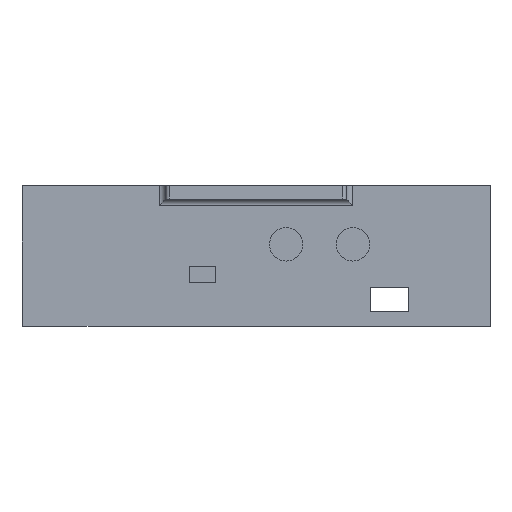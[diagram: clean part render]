
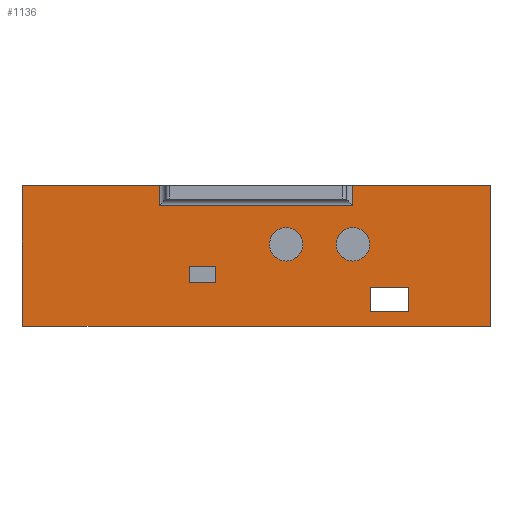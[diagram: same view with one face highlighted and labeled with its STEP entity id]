
A CAD part, top view. The second image highlights one B-rep face of the part: STEP entity #1136.
In plain terms, the highlighted planar face has unit normal (0, 0, 1).
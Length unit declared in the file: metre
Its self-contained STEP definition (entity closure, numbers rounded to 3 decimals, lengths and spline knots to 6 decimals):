
#28=CIRCLE('',#1209,0.005);
#29=CIRCLE('',#1210,0.005);
#52=ORIENTED_EDGE('',*,*,#386,.T.);
#53=ORIENTED_EDGE('',*,*,#387,.T.);
#54=ORIENTED_EDGE('',*,*,#388,.T.);
#55=ORIENTED_EDGE('',*,*,#389,.T.);
#56=ORIENTED_EDGE('',*,*,#390,.F.);
#57=ORIENTED_EDGE('',*,*,#391,.T.);
#58=ORIENTED_EDGE('',*,*,#392,.T.);
#59=ORIENTED_EDGE('',*,*,#393,.T.);
#60=ORIENTED_EDGE('',*,*,#394,.F.);
#61=ORIENTED_EDGE('',*,*,#395,.T.);
#62=ORIENTED_EDGE('',*,*,#396,.F.);
#63=ORIENTED_EDGE('',*,*,#397,.F.);
#64=ORIENTED_EDGE('',*,*,#398,.F.);
#65=ORIENTED_EDGE('',*,*,#399,.F.);
#66=ORIENTED_EDGE('',*,*,#400,.F.);
#67=ORIENTED_EDGE('',*,*,#401,.T.);
#68=ORIENTED_EDGE('',*,*,#402,.T.);
#69=ORIENTED_EDGE('',*,*,#403,.F.);
#386=EDGE_CURVE('',#553,#554,#667,.F.);
#387=EDGE_CURVE('',#554,#555,#668,.F.);
#388=EDGE_CURVE('',#555,#556,#669,.T.);
#389=EDGE_CURVE('',#556,#557,#670,.T.);
#390=EDGE_CURVE('',#558,#557,#671,.T.);
#391=EDGE_CURVE('',#558,#559,#672,.T.);
#392=EDGE_CURVE('',#559,#560,#673,.T.);
#393=EDGE_CURVE('',#560,#553,#674,.F.);
#394=EDGE_CURVE('',#561,#561,#28,.T.);
#395=EDGE_CURVE('',#562,#562,#29,.T.);
#396=EDGE_CURVE('',#563,#564,#675,.T.);
#397=EDGE_CURVE('',#565,#563,#676,.T.);
#398=EDGE_CURVE('',#566,#565,#677,.T.);
#399=EDGE_CURVE('',#564,#566,#678,.T.);
#400=EDGE_CURVE('',#567,#568,#679,.T.);
#401=EDGE_CURVE('',#567,#569,#680,.T.);
#402=EDGE_CURVE('',#569,#570,#681,.T.);
#403=EDGE_CURVE('',#568,#570,#682,.T.);
#553=VERTEX_POINT('',#1609);
#554=VERTEX_POINT('',#1610);
#555=VERTEX_POINT('',#1612);
#556=VERTEX_POINT('',#1614);
#557=VERTEX_POINT('',#1616);
#558=VERTEX_POINT('',#1618);
#559=VERTEX_POINT('',#1620);
#560=VERTEX_POINT('',#1622);
#561=VERTEX_POINT('',#1625);
#562=VERTEX_POINT('',#1627);
#563=VERTEX_POINT('',#1629);
#564=VERTEX_POINT('',#1630);
#565=VERTEX_POINT('',#1632);
#566=VERTEX_POINT('',#1634);
#567=VERTEX_POINT('',#1637);
#568=VERTEX_POINT('',#1638);
#569=VERTEX_POINT('',#1640);
#570=VERTEX_POINT('',#1642);
#667=LINE('',#1608,#808);
#668=LINE('',#1611,#809);
#669=LINE('',#1613,#810);
#670=LINE('',#1615,#811);
#671=LINE('',#1617,#812);
#672=LINE('',#1619,#813);
#673=LINE('',#1621,#814);
#674=LINE('',#1623,#815);
#675=LINE('',#1628,#816);
#676=LINE('',#1631,#817);
#677=LINE('',#1633,#818);
#678=LINE('',#1635,#819);
#679=LINE('',#1636,#820);
#680=LINE('',#1639,#821);
#681=LINE('',#1641,#822);
#682=LINE('',#1643,#823);
#808=VECTOR('',#1297,1.);
#809=VECTOR('',#1298,1.);
#810=VECTOR('',#1299,1.);
#811=VECTOR('',#1300,1.);
#812=VECTOR('',#1301,1.);
#813=VECTOR('',#1302,1.);
#814=VECTOR('',#1303,1.);
#815=VECTOR('',#1304,1.);
#816=VECTOR('',#1309,1.);
#817=VECTOR('',#1310,1.);
#818=VECTOR('',#1311,1.);
#819=VECTOR('',#1312,1.);
#820=VECTOR('',#1313,1.);
#821=VECTOR('',#1314,1.);
#822=VECTOR('',#1315,1.);
#823=VECTOR('',#1316,1.);
#949=EDGE_LOOP('',(#52,#53,#54,#55,#56,#57,#58,#59));
#950=EDGE_LOOP('',(#60));
#951=EDGE_LOOP('',(#61));
#952=EDGE_LOOP('',(#62,#63,#64,#65));
#953=EDGE_LOOP('',(#66,#67,#68,#69));
#1020=FACE_BOUND('',#949,.T.);
#1021=FACE_BOUND('',#950,.T.);
#1022=FACE_BOUND('',#951,.T.);
#1023=FACE_BOUND('',#952,.T.);
#1024=FACE_BOUND('',#953,.T.);
#1091=PLANE('',#1208);
#1136=ADVANCED_FACE('',(#1020,#1021,#1022,#1023,#1024),#1091,.T.);
#1208=AXIS2_PLACEMENT_3D('',#1607,#1295,#1296);
#1209=AXIS2_PLACEMENT_3D('',#1624,#1305,#1306);
#1210=AXIS2_PLACEMENT_3D('',#1626,#1307,#1308);
#1295=DIRECTION('',(0.,0.,1.));
#1296=DIRECTION('',(0.,-1.,0.));
#1297=DIRECTION('',(1.,0.,0.));
#1298=DIRECTION('',(0.,-1.,0.));
#1299=DIRECTION('',(-1.,0.,0.));
#1300=DIRECTION('',(0.,-1.,0.));
#1301=DIRECTION('',(-1.,0.,0.));
#1302=DIRECTION('',(0.,1.,0.));
#1303=DIRECTION('',(-1.,0.,0.));
#1304=DIRECTION('',(0.,1.,0.));
#1305=DIRECTION('',(0.,0.,1.));
#1306=DIRECTION('',(1.,0.,0.));
#1307=DIRECTION('',(0.,0.,-1.));
#1308=DIRECTION('',(1.,0.,0.));
#1309=DIRECTION('',(1.,0.,0.));
#1310=DIRECTION('',(0.,-1.,0.));
#1311=DIRECTION('',(-1.,0.,0.));
#1312=DIRECTION('',(0.,1.,0.));
#1313=DIRECTION('',(0.,1.,0.));
#1314=DIRECTION('',(-1.,0.,0.));
#1315=DIRECTION('',(0.,1.,0.));
#1316=DIRECTION('',(-1.,0.,0.));
#1607=CARTESIAN_POINT('',(0.0795,0.,0.003));
#1608=CARTESIAN_POINT('',(0.0795,-0.026,0.003));
#1609=CARTESIAN_POINT('',(0.1785,-0.026,0.003));
#1610=CARTESIAN_POINT('',(0.1205,-0.026,0.003));
#1611=CARTESIAN_POINT('',(0.1205,0.,0.003));
#1612=CARTESIAN_POINT('',(0.1205,-0.02,0.003));
#1613=CARTESIAN_POINT('',(0.0795,-0.02,0.003));
#1614=CARTESIAN_POINT('',(0.0795,-0.02,0.003));
#1615=CARTESIAN_POINT('',(0.0795,0.,0.003));
#1616=CARTESIAN_POINT('',(0.0795,-0.062,0.003));
#1617=CARTESIAN_POINT('',(0.151126,-0.062,0.003));
#1618=CARTESIAN_POINT('',(0.2195,-0.062,0.003));
#1619=CARTESIAN_POINT('',(0.2195,-0.045,0.003));
#1620=CARTESIAN_POINT('',(0.2195,-0.02,0.003));
#1621=CARTESIAN_POINT('',(0.0795,-0.02,0.003));
#1622=CARTESIAN_POINT('',(0.1785,-0.02,0.003));
#1623=CARTESIAN_POINT('',(0.1785,0.,0.003));
#1624=CARTESIAN_POINT('',(0.1785,-0.0375,0.003));
#1625=CARTESIAN_POINT('',(0.1835,-0.0375,0.003));
#1626=CARTESIAN_POINT('',(0.1585,-0.0375,0.003));
#1627=CARTESIAN_POINT('',(0.1635,-0.0375,0.003));
#1628=CARTESIAN_POINT('',(0.0795,-0.0575,0.003));
#1629=CARTESIAN_POINT('',(0.183621,-0.0575,0.003));
#1630=CARTESIAN_POINT('',(0.195121,-0.0575,0.003));
#1631=CARTESIAN_POINT('',(0.183621,0.,0.003));
#1632=CARTESIAN_POINT('',(0.183621,-0.0505,0.003));
#1633=CARTESIAN_POINT('',(0.0795,-0.0505,0.003));
#1634=CARTESIAN_POINT('',(0.195121,-0.0505,0.003));
#1635=CARTESIAN_POINT('',(0.195121,0.,0.003));
#1636=CARTESIAN_POINT('',(0.1375,-0.0466,0.003));
#1637=CARTESIAN_POINT('',(0.1375,-0.049,0.003));
#1638=CARTESIAN_POINT('',(0.1375,-0.0442,0.003));
#1639=CARTESIAN_POINT('',(0.1335,-0.049,0.003));
#1640=CARTESIAN_POINT('',(0.1295,-0.049,0.003));
#1641=CARTESIAN_POINT('',(0.1295,-0.0466,0.003));
#1642=CARTESIAN_POINT('',(0.1295,-0.0442,0.003));
#1643=CARTESIAN_POINT('',(0.1335,-0.0442,0.003));
